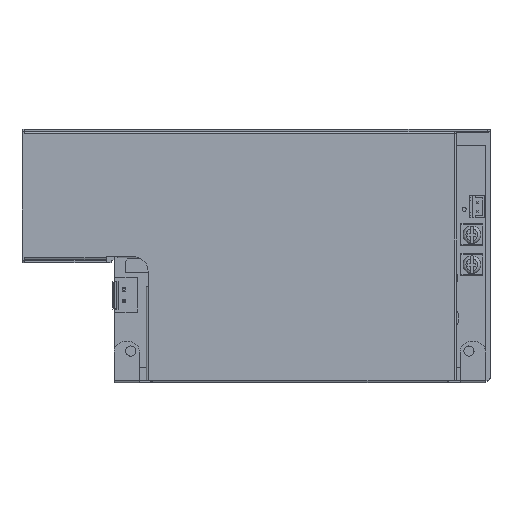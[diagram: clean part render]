
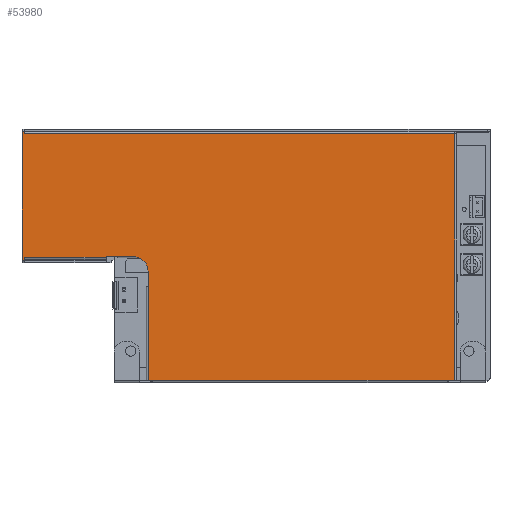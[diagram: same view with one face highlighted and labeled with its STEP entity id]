
A CAD part, top view. The second image highlights one B-rep face of the part: STEP entity #53980.
In plain terms, the highlighted planar face has unit normal (0, 0, 1).
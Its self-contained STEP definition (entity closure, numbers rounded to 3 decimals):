
#17080=CARTESIAN_POINT('',(76.238,921.689,5.4))
;
#17090=VERTEX_POINT('',#17080);
#17120=CARTESIAN_POINT('',(76.238,966.489,
5.4));
#17130=DIRECTION('',(0.,-1.,0.));
#17140=VECTOR('',#17130,1.);
#17150=LINE('',#17120,#17140);
#17160=CARTESIAN_POINT('',(76.238,922.639,
5.4));
#17170=VERTEX_POINT('',#17160);
#17180=EDGE_CURVE('',#17170,#17090,#17150,.T.);
#18080=CARTESIAN_POINT('',(76.238,964.989,
5.4));
#18090=VERTEX_POINT('',#18080);
#18120=CARTESIAN_POINT('',(76.238,965.689,
5.4));
#18130=VERTEX_POINT('',#18120);
#18140=EDGE_CURVE('',#18130,#18090,#17150,.T.);
#27390=CARTESIAN_POINT('',(75.438,965.689,
5.4));
#27400=VERTEX_POINT('',#27390);
#27430=CARTESIAN_POINT('',(75.438,966.489,
5.4));
#27440=DIRECTION('',(0.,-1.,0.));
#27450=VECTOR('',#27440,1.);
#27460=LINE('',#27430,#27450);
#27470=CARTESIAN_POINT('',(75.438,921.689,5.4))
;
#27480=VERTEX_POINT('',#27470);
#27490=EDGE_CURVE('',#27400,#27480,#27460,.T.);
#51160=CARTESIAN_POINT('',(118.538,917.939,
5.4));
#51170=VERTEX_POINT('',#51160);
#51200=CARTESIAN_POINT('',(118.538,-0.16,
5.4));
#51210=DIRECTION('',(0.,1.,0.));
#51220=VECTOR('',#51210,1.);
#51230=LINE('',#51200,#51220);
#51240=CARTESIAN_POINT('',(118.538,912.789,
5.4));
#51250=VERTEX_POINT('',#51240);
#51260=EDGE_CURVE('',#51250,#51170,#51230,.T.);
#51420=CARTESIAN_POINT('',(113.538,917.939,
5.4));
#51430=DIRECTION('',(0.,0.,1.));
#51440=DIRECTION('',(1.,0.,0.));
#51450=AXIS2_PLACEMENT_3D('',#51420,#51430,#51440);
#51460=CIRCLE('',#51450,5.);
#51470=CARTESIAN_POINT('',(113.538,922.939,
5.4));
#51480=VERTEX_POINT('',#51470);
#51490=EDGE_CURVE('',#51170,#51480,#51460,.T.);
#52600=CARTESIAN_POINT('',(120.088,880.589,
5.4));
#52610=VERTEX_POINT('',#52600);
#53020=CARTESIAN_POINT('',(118.538,880.589,
5.4));
#53030=VERTEX_POINT('',#53020);
#53060=CARTESIAN_POINT('',(0.,880.589,5.4));
#53070=DIRECTION('',(1.,0.,0.));
#53080=VECTOR('',#53070,1.);
#53090=LINE('',#53060,#53080);
#53100=EDGE_CURVE('',#53030,#52610,#53090,.T.);
#53150=CARTESIAN_POINT('',(119.513,902.534,
5.4));
#53160=DIRECTION('',(0.,-0.,1.));
#53170=DIRECTION('',(0.,1.,0.));
#53180=AXIS2_PLACEMENT_3D('',#53150,#53160,#53170);
#53190=PLANE('',#53180);
#53200=ORIENTED_EDGE('',*,*,#17180,.F.);
#53210=CARTESIAN_POINT('',(-9.1,921.689,5.4));
#53220=DIRECTION('',(1.,0.,0.));
#53230=VECTOR('',#53220,1.);
#53240=LINE('',#53210,#53230);
#53250=EDGE_CURVE('',#27480,#17090,#53240,.T.);
#53260=ORIENTED_EDGE('',*,*,#53250,.T.);
#53270=ORIENTED_EDGE('',*,*,#27490,.T.);
#53280=CARTESIAN_POINT('',(-9.1,965.689,5.4));
#53290=DIRECTION('',(1.,0.,0.));
#53300=VECTOR('',#53290,1.);
#53310=LINE('',#53280,#53300);
#53320=EDGE_CURVE('',#27400,#18130,#53310,.T.);
#53330=ORIENTED_EDGE('',*,*,#53320,.F.);
#53340=ORIENTED_EDGE('',*,*,#18140,.F.);
#53350=CARTESIAN_POINT('',(0.,964.989,5.4));
#53360=DIRECTION('',(1.,0.,0.));
#53370=VECTOR('',#53360,1.);
#53380=LINE('',#53350,#53370);
#53390=CARTESIAN_POINT('',(223.333,964.989,
5.4));
#53400=VERTEX_POINT('',#53390);
#53410=EDGE_CURVE('',#18090,#53400,#53380,.T.);
#53420=ORIENTED_EDGE('',*,*,#53410,.F.);
#53430=CARTESIAN_POINT('',(223.333,-0.16,
5.4));
#53440=DIRECTION('',(0.,-1.,0.));
#53450=VECTOR('',#53440,1.);
#53460=LINE('',#53430,#53450);
#53470=CARTESIAN_POINT('',(223.333,880.589,
5.4));
#53480=VERTEX_POINT('',#53470);
#53490=EDGE_CURVE('',#53400,#53480,#53460,.T.);
#53500=ORIENTED_EDGE('',*,*,#53490,.F.);
#53510=CARTESIAN_POINT('',(0.,880.589,5.4));
#53520=DIRECTION('',(-1.,0.,0.));
#53530=VECTOR('',#53520,1.);
#53540=LINE('',#53510,#53530);
#53550=CARTESIAN_POINT('',(220.788,880.589,
5.4));
#53560=VERTEX_POINT('',#53550);
#53570=EDGE_CURVE('',#53480,#53560,#53540,.T.);
#53580=ORIENTED_EDGE('',*,*,#53570,.F.);
#53590=CARTESIAN_POINT('',(2.1,880.589,
5.4));
#53600=DIRECTION('',(-1.,0.,0.));
#53610=VECTOR('',#53600,1.);
#53620=LINE('',#53590,#53610);
#53630=EDGE_CURVE('',#53560,#52610,#53620,.T.);
#53640=ORIENTED_EDGE('',*,*,#53630,.F.);
#53650=ORIENTED_EDGE('',*,*,#53100,.T.);
#53660=CARTESIAN_POINT('',(118.538,-0.16,
5.4));
#53670=DIRECTION('',(0.,1.,0.));
#53680=VECTOR('',#53670,1.);
#53690=LINE('',#53660,#53680);
#53700=EDGE_CURVE('',#53030,#51250,#53690,.T.);
#53710=ORIENTED_EDGE('',*,*,#53700,.F.);
#53720=ORIENTED_EDGE('',*,*,#51260,.F.);
#53730=ORIENTED_EDGE('',*,*,#51490,.F.);
#53740=CARTESIAN_POINT('',(2.1,922.939,
5.4));
#53750=DIRECTION('',(-1.,0.,0.));
#53760=VECTOR('',#53750,1.);
#53770=LINE('',#53740,#53760);
#53780=CARTESIAN_POINT('',(104.238,922.939,
5.4));
#53790=VERTEX_POINT('',#53780);
#53800=EDGE_CURVE('',#51480,#53790,#53770,.T.);
#53810=ORIENTED_EDGE('',*,*,#53800,.F.);
#53820=CARTESIAN_POINT('',(104.238,-0.16,
5.4));
#53830=DIRECTION('',(0.,1.,0.));
#53840=VECTOR('',#53830,1.);
#53850=LINE('',#53820,#53840);
#53860=CARTESIAN_POINT('',(104.238,922.639,
5.4));
#53870=VERTEX_POINT('',#53860);
#53880=EDGE_CURVE('',#53870,#53790,#53850,.T.);
#53890=ORIENTED_EDGE('',*,*,#53880,.T.);
#53900=CARTESIAN_POINT('',(2.1,922.639,
5.4));
#53910=DIRECTION('',(1.,0.,0.));
#53920=VECTOR('',#53910,1.);
#53930=LINE('',#53900,#53920);
#53940=EDGE_CURVE('',#17170,#53870,#53930,.T.);
#53950=ORIENTED_EDGE('',*,*,#53940,.T.);
#53960=EDGE_LOOP('',(#53950,#53890,#53810,#53730,#53720,#53710,#53650,
#53640,#53580,#53500,#53420,#53340,#53330,#53270,#53260,#53200));
#53970=FACE_OUTER_BOUND('',#53960,.T.);
#53980=ADVANCED_FACE('',(#53970),#53190,.T.);
